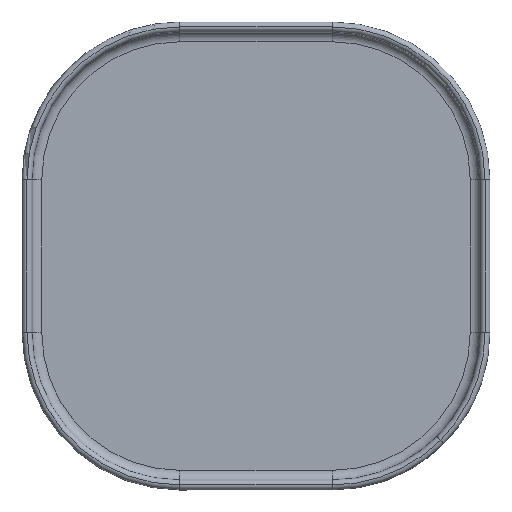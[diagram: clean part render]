
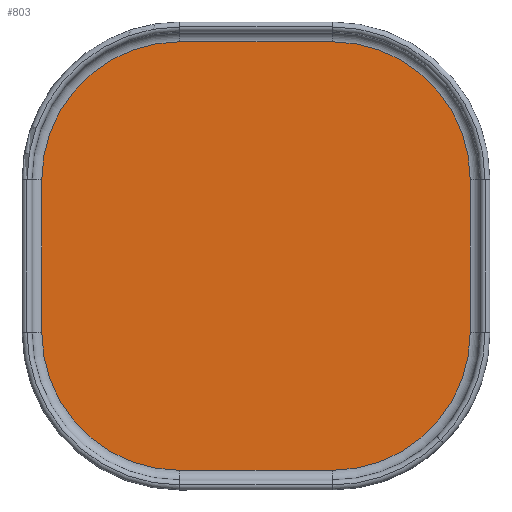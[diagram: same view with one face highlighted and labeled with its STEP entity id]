
A CAD part, top view. The second image highlights one B-rep face of the part: STEP entity #803.
In plain terms, the highlighted planar face has unit normal (0, 0, 1).
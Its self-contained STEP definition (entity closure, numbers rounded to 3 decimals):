
#5 = CARTESIAN_POINT ( 'NONE',  ( -15.5, -8., -5.5 ) ) ;
#25 = CARTESIAN_POINT ( 'NONE',  ( 43.5, 23., -5.5 ) ) ;
#35 = EDGE_LOOP ( 'NONE', ( #440, #435, #1047, #851, #1132, #52, #617, #401 ) ) ;
#40 = CARTESIAN_POINT ( 'NONE',  ( 0., -36., -5.5 ) ) ;
#48 = DIRECTION ( 'NONE',  ( 1., 0., 0. ) ) ;
#51 = LINE ( 'NONE', #907, #1059 ) ;
#52 = ORIENTED_EDGE ( 'NONE', *, *, #1131, .T. ) ;
#59 = LINE ( 'NONE', #641, #676 ) ;
#60 = VERTEX_POINT ( 'NONE', #1123 ) ;
#94 = EDGE_CURVE ( 'NONE', #734, #858, #59, .T. ) ;
#106 = VERTEX_POINT ( 'NONE', #255 ) ;
#115 = DIRECTION ( 'NONE',  ( 1., 0., 0. ) ) ;
#177 = DIRECTION ( 'NONE',  ( 1., 0., 0. ) ) ;
#206 = AXIS2_PLACEMENT_3D ( 'NONE', #5, #1146, #177 ) ;
#218 = EDGE_CURVE ( 'NONE', #106, #445, #51, .T. ) ;
#251 = VECTOR ( 'NONE', #303, 1000. ) ;
#255 = CARTESIAN_POINT ( 'NONE',  ( 15.5, 51., -5.5 ) ) ;
#294 = AXIS2_PLACEMENT_3D ( 'NONE', #436, #356, #540 ) ;
#298 = DIRECTION ( 'NONE',  ( 0., 0., 1. ) ) ;
#303 = DIRECTION ( 'NONE',  ( 0., -1., 0. ) ) ;
#356 = DIRECTION ( 'NONE',  ( 0., 0., 1. ) ) ;
#367 = EDGE_CURVE ( 'NONE', #858, #106, #503, .T. ) ;
#390 = EDGE_CURVE ( 'NONE', #60, #1022, #990, .T. ) ;
#391 = CIRCLE ( 'NONE', #294, 28. ) ;
#401 = ORIENTED_EDGE ( 'NONE', *, *, #367, .T. ) ;
#435 = ORIENTED_EDGE ( 'NONE', *, *, #962, .T. ) ;
#436 = CARTESIAN_POINT ( 'NONE',  ( -15.5, 23., -5.5 ) ) ;
#440 = ORIENTED_EDGE ( 'NONE', *, *, #218, .T. ) ;
#445 = VERTEX_POINT ( 'NONE', #504 ) ;
#455 = LINE ( 'NONE', #40, #811 ) ;
#503 = CIRCLE ( 'NONE', #995, 28. ) ;
#504 = CARTESIAN_POINT ( 'NONE',  ( -15.5, 51., -5.5 ) ) ;
#512 = DIRECTION ( 'NONE',  ( -1., 0., 0. ) ) ;
#528 = CIRCLE ( 'NONE', #1019, 28. ) ;
#540 = DIRECTION ( 'NONE',  ( 1., 0., 0. ) ) ;
#568 = CARTESIAN_POINT ( 'NONE',  ( -15.5, -36., -5.5 ) ) ;
#579 = CARTESIAN_POINT ( 'NONE',  ( -43.5, 7.5, -5.5 ) ) ;
#595 = CARTESIAN_POINT ( 'NONE',  ( 15.5, 23., -5.5 ) ) ;
#617 = ORIENTED_EDGE ( 'NONE', *, *, #94, .T. ) ;
#641 = CARTESIAN_POINT ( 'NONE',  ( 43.5, 7.5, -5.5 ) ) ;
#662 = DIRECTION ( 'NONE',  ( 0., 1., 0. ) ) ;
#673 = CARTESIAN_POINT ( 'NONE',  ( 43.5, -8., -5.5 ) ) ;
#676 = VECTOR ( 'NONE', #662, 1000. ) ;
#711 = AXIS2_PLACEMENT_3D ( 'NONE', #1192, #897, #786 ) ;
#732 = VERTEX_POINT ( 'NONE', #965 ) ;
#734 = VERTEX_POINT ( 'NONE', #673 ) ;
#786 = DIRECTION ( 'NONE',  ( 1., 0., 0. ) ) ;
#803 = ADVANCED_FACE ( 'NONE', ( #879 ), #904, .T. ) ;
#811 = VECTOR ( 'NONE', #48, 1000. ) ;
#835 = CIRCLE ( 'NONE', #206, 28. ) ;
#847 = CARTESIAN_POINT ( 'NONE',  ( 15.5, -8., -5.5 ) ) ;
#851 = ORIENTED_EDGE ( 'NONE', *, *, #1088, .T. ) ;
#858 = VERTEX_POINT ( 'NONE', #25 ) ;
#867 = DIRECTION ( 'NONE',  ( 0., 0., 1. ) ) ;
#879 = FACE_OUTER_BOUND ( 'NONE', #35, .T. ) ;
#897 = DIRECTION ( 'NONE',  ( 0., 0., 1. ) ) ;
#904 = PLANE ( 'NONE',  #711 ) ;
#907 = CARTESIAN_POINT ( 'NONE',  ( 0., 51., -5.5 ) ) ;
#932 = EDGE_CURVE ( 'NONE', #1126, #732, #455, .T. ) ;
#962 = EDGE_CURVE ( 'NONE', #445, #60, #391, .T. ) ;
#965 = CARTESIAN_POINT ( 'NONE',  ( 15.5, -36., -5.5 ) ) ;
#990 = LINE ( 'NONE', #579, #251 ) ;
#995 = AXIS2_PLACEMENT_3D ( 'NONE', #595, #298, #115 ) ;
#1010 = CARTESIAN_POINT ( 'NONE',  ( -43.5, -8., -5.5 ) ) ;
#1019 = AXIS2_PLACEMENT_3D ( 'NONE', #847, #867, #1246 ) ;
#1022 = VERTEX_POINT ( 'NONE', #1010 ) ;
#1047 = ORIENTED_EDGE ( 'NONE', *, *, #390, .T. ) ;
#1059 = VECTOR ( 'NONE', #512, 1000. ) ;
#1088 = EDGE_CURVE ( 'NONE', #1022, #1126, #835, .T. ) ;
#1123 = CARTESIAN_POINT ( 'NONE',  ( -43.5, 23., -5.5 ) ) ;
#1126 = VERTEX_POINT ( 'NONE', #568 ) ;
#1131 = EDGE_CURVE ( 'NONE', #732, #734, #528, .T. ) ;
#1132 = ORIENTED_EDGE ( 'NONE', *, *, #932, .T. ) ;
#1146 = DIRECTION ( 'NONE',  ( 0., 0., 1. ) ) ;
#1192 = CARTESIAN_POINT ( 'NONE',  ( 0., 7.5, -5.5 ) ) ;
#1246 = DIRECTION ( 'NONE',  ( 1., 0., 0. ) ) ;
